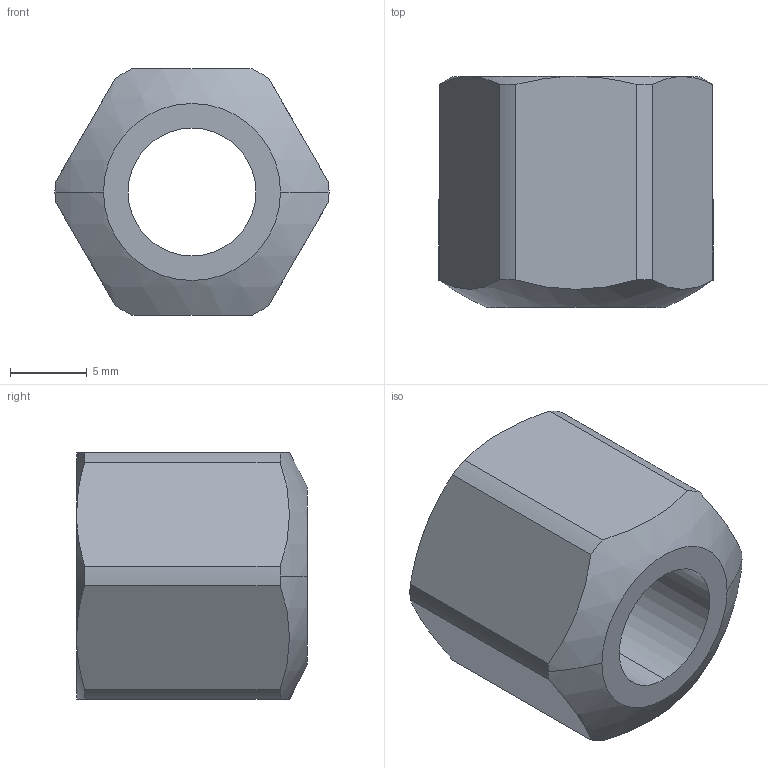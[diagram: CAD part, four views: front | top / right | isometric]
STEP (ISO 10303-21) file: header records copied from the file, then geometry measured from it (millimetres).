
FILE_DESCRIPTION (( 'STEP AP214' ), '1' );
FILE_NAME ('6330-M10-B-NI.step', '2022-12-22T14:17:30', ( '' ), ( '' ), 'SwSTEP 2.0', 'SolidWorks 2022', '' );
FILE_SCHEMA (( 'AUTOMOTIVE_DESIGN' ));
Length unit declared in the file: millimetre
Products named in the file (1): 6330-M10-B-NI
Bounding box: 17.8 x 15 x 16 mm (x, y, z)
Volume: 2409 mm3; surface area: 1468.1 mm2
Topology: 1 solids, 1 shells, 24 faces, 60 edges, 38 vertices
Faces by surface type: cylinder 8, plane 8, cone 6, sphere 2
Entity records: 814 total; most frequent: CARTESIAN_POINT 171, DIRECTION 132, ORIENTED_EDGE 120, EDGE_CURVE 60, AXIS2_PLACEMENT_3D 59, VERTEX_POINT 38, CIRCLE 34, EDGE_LOOP 26
